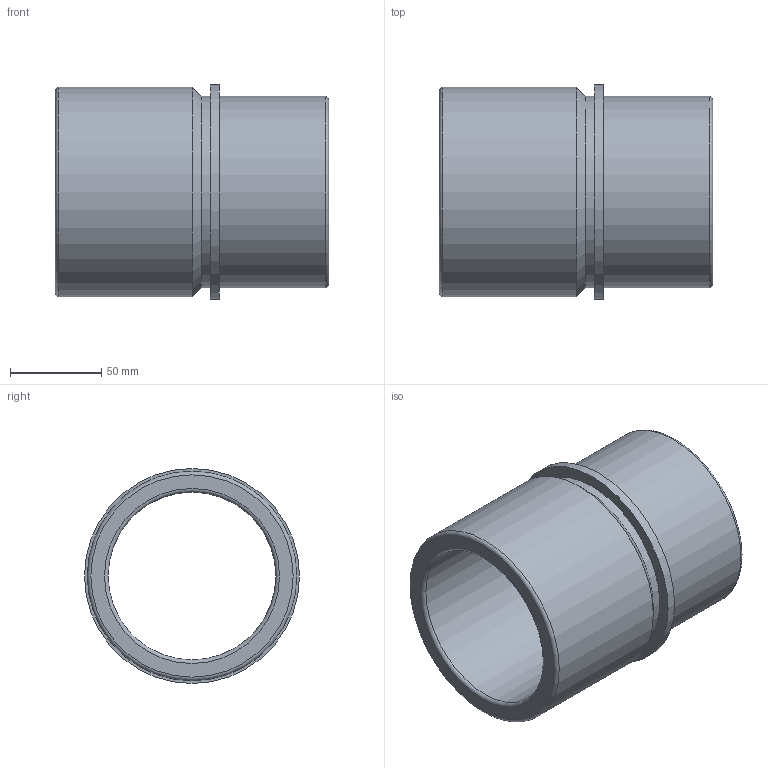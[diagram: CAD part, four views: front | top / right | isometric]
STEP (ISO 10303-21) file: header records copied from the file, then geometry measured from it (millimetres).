
FILE_DESCRIPTION( ( 'STEP AP214' ), '1' );
FILE_NAME( 'p:/temp/worker_56/temp/exporttempdir_4248_153_qo4Xu/format_1/WZ - 4053 80 x 150 - 92.stp', '2020-12-06T13:46:47', ( 'License CC BY-ND 4.0' ), ( 'CADENAS' ), ' ', 'PARTsolutions', ' ' );
FILE_SCHEMA( ( 'AUTOMOTIVE_DESIGN { 1 0 10303 214 1 1 1 1 }' ) );
Length unit declared in the file: millimetre
Products named in the file (1): _WZ - 4053 80 x 150 - 92
Bounding box: 150 x 118 x 118 mm (x, y, z)
Volume: 445850.5 mm3; surface area: 105403.6 mm2
Topology: 1 solids, 1 shells, 14 faces, 24 edges, 14 vertices
Faces by surface type: cylinder 5, plane 4, torus 4, cone 1
Full cylindrical faces by diameter (mm): 92 x1, 105 x2, 115 x1, 118 x1
Entity records: 416 total; most frequent: DIRECTION 58, CARTESIAN_POINT 43, AXIS2_PLACEMENT_3D 29, EDGE_LOOP 28, ORIENTED_EDGE 28, FACE_OUTER_BOUND 23, STYLED_ITEM 14, PRESENTATION_STYLE_ASSIGNMENT 14
